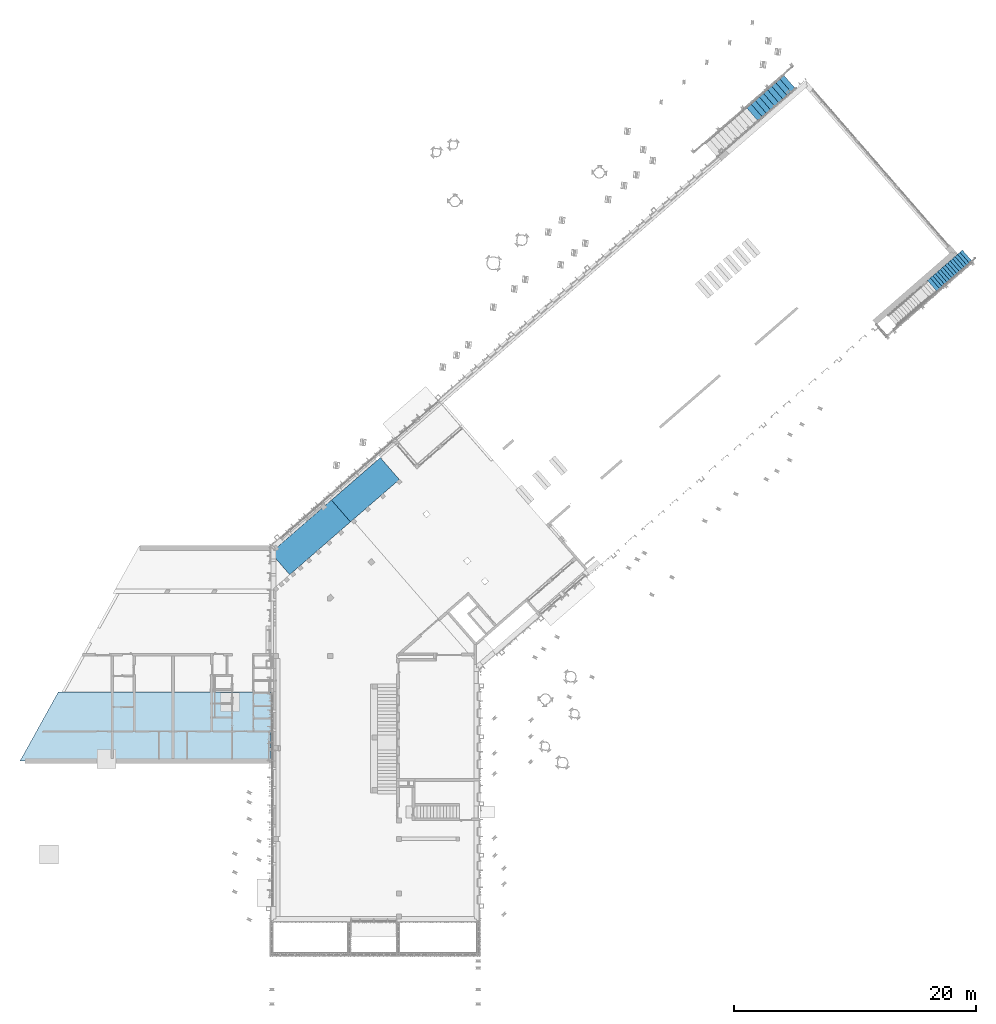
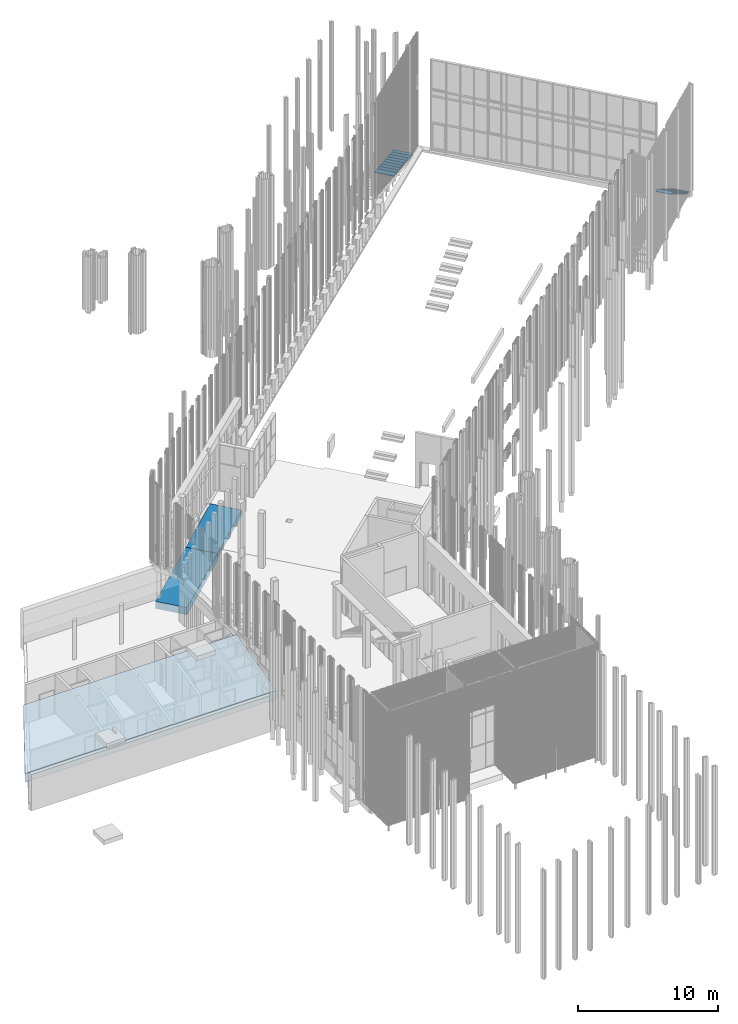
# One storey, part 27 of 390: 23 stairs, 2 ramps, 1 roof, 2 elements without a shape of their own.
"""IFC2X3 building model written with IfcOpenShell, lengths in millimetres."""

from ifc_helpers import new_model, entity, si_unit, converted_unit, derived_unit, money_unit, direction, frame, origin_with_axes, place, context, subcontext, project, spatial, polyline, outline, extrude, faceted_brep, material, material_list, element, aggregate, save


model = new_model("IFC2X3")

# Units and contexts
model_context = context("Model", 3, precision=1e-05, world=origin_with_axes(), true_north=direction((0.0, 1.0)))
body_context = subcontext(model_context, "Body", "Model", "MODEL_VIEW")
ifc_project = project(units=[si_unit("LENGTHUNIT", "METRE", prefix="MILLI"), si_unit("AREAUNIT", "SQUARE_METRE"), si_unit("VOLUMEUNIT", "CUBIC_METRE"), converted_unit("PLANEANGLEUNIT", "DEGREE", entity("IfcPlaneAngleMeasure", 0.0174532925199), si_unit("PLANEANGLEUNIT", "RADIAN"), dimensions=[0, 0, 0, 0, 0, 0, 0]), si_unit("SOLIDANGLEUNIT", "STERADIAN"), money_unit("EUR"), converted_unit("TIMEUNIT", "Year", entity("IfcTimeMeasure", 31556926.0), si_unit("TIMEUNIT", "SECOND"), dimensions=[0, 0, 1, 0, 0, 0, 0]), si_unit("MASSUNIT", "GRAM", prefix="KILO"), si_unit("THERMODYNAMICTEMPERATUREUNIT", "DEGREE_CELSIUS"), si_unit("LUMINOUSINTENSITYUNIT", "LUMEN"), si_unit("ENERGYUNIT", "JOULE", prefix="MEGA"), derived_unit("THERMALCONDUCTANCEUNIT", [(si_unit("POWERUNIT", "WATT"), 1), (si_unit("LENGTHUNIT", "METRE"), -1), (si_unit("THERMODYNAMICTEMPERATUREUNIT", "KELVIN"), -1)]), derived_unit("SPECIFICHEATCAPACITYUNIT", [(si_unit("ENERGYUNIT", "JOULE"), 1), (si_unit("MASSUNIT", "GRAM", prefix="KILO"), -1), (si_unit("THERMODYNAMICTEMPERATUREUNIT", "KELVIN"), -1)]), derived_unit("MASSDENSITYUNIT", [(si_unit("MASSUNIT", "GRAM", prefix="KILO"), 1), (si_unit("VOLUMEUNIT", "CUBIC_METRE"), -1)])], contexts=[model_context])

# Site, building, storey
site_placement = place(None, origin_with_axes())
site = spatial("IfcSite", under=ifc_project, at=site_placement, Name="Site", CompositionType="ELEMENT")
building_placement = place(site_placement, origin_with_axes())
building = spatial("IfcBuilding", under=site, at=building_placement, Name="Building", CompositionType="ELEMENT")
storey_placement = place(building_placement, origin_with_axes())
storey = spatial("IfcBuildingStorey", under=building, at=storey_placement, Name="1 korrus", CompositionType="ELEMENT", Elevation=0.0)

# Stairs
stair_1_placement = place(storey_placement, frame((164892.524006, 115287.293826, -9.99999999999), z_axis=(0.0, 0.0, 1.0), x_axis=(1.0, 0.0, 0.0)))
stair_1 = element("IfcStair", 1, at=stair_1_placement, inside=storey, Name="T-12", ShapeType="NOTDEFINED")
ifc_material_1 = material(Name="Teras (musta värvi)")
stair_2_placement = place(stair_1_placement, frame((478.923091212, -550.93799352, 90.0), z_axis=(0.0, 0.0, 1.0), x_axis=(-0.656059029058, 0.754709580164, 0.0)))
stair_2 = element("IfcStair", 2, at=stair_2_placement, material=ifc_material_1, Name="T-12", ShapeType="NOTDEFINED", context=body_context, shape_type="Brep", body=[
    faceted_brep([(-730.0, 0.0, -50.0), (730.0, 0.0, -50.0), (730.0, 0.0, 0.0), (-730.0, 0.0, 0.0), (-730.0, 490.000005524, -50.0), (730.0, 490.000001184, -50.0), (730.0, 490.000001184, 0.0), (-730.0, 490.000005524, 0.0)], [[[0, 1, 2, 3]], [[0, 4, 5, 1]], [[1, 5, 6, 2]], [[3, 2, 6, 7]], [[4, 0, 3, 7]], [[5, 4, 7, 6]]]),
])
stair_3_placement = place(stair_1_placement, frame((139.303780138, -846.164556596, 180.0), z_axis=(0.0, 0.0, 1.0), x_axis=(-0.656059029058, 0.754709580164, 0.0)))
stair_3 = element("IfcStair", 3, at=stair_3_placement, material=ifc_material_1, Name="T-12", ShapeType="NOTDEFINED", context=body_context, shape_type="Brep", body=[
    faceted_brep([(-730.0, 0.0, -50.0), (730.0, 0.0, -50.0), (730.0, 0.0, 0.0), (-730.0, 0.0, 0.0), (-730.0, 490.000004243, -50.0), (730.0, 489.999999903, -50.0), (730.0, 489.999999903, 0.0), (-730.0, 490.000004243, 0.0)], [[[0, 1, 2, 3]], [[0, 4, 5, 1]], [[1, 5, 6, 2]], [[3, 2, 6, 7]], [[4, 0, 3, 7]], [[5, 4, 7, 6]]]),
])
stair_4_placement = place(stair_1_placement, frame((-200.315530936, -1141.39111967, 270.0), z_axis=(0.0, 0.0, 1.0), x_axis=(-0.656059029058, 0.754709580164, 0.0)))
stair_4 = element("IfcStair", 4, at=stair_4_placement, material=ifc_material_1, Name="T-12", ShapeType="NOTDEFINED", context=body_context, shape_type="Brep", body=[
    faceted_brep([(-730.0, 0.0, -50.0), (730.0, 0.0, -50.0), (730.0, 0.0, 0.0), (-730.0, 0.0, 0.0), (-730.0, 490.000004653, -50.0), (730.0, 490.000000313, -50.0), (730.0, 490.000000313, 0.0), (-730.0, 490.000004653, 0.0)], [[[0, 1, 2, 3]], [[0, 4, 5, 1]], [[1, 5, 6, 2]], [[3, 2, 6, 7]], [[4, 0, 3, 7]], [[5, 4, 7, 6]]]),
])
stair_5_placement = place(stair_1_placement, frame((-539.93484201, -1436.61768275, 360.0), z_axis=(0.0, 0.0, 1.0), x_axis=(-0.656059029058, 0.754709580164, 0.0)))
stair_5 = element("IfcStair", 5, at=stair_5_placement, material=ifc_material_1, Name="T-12", ShapeType="NOTDEFINED", context=body_context, shape_type="Brep", body=[
    faceted_brep([(-730.0, 0.0, -50.0), (730.0, 0.0, -50.0), (730.0, 0.0, 0.0), (-730.0, 0.0, 0.0), (-730.0, 490.000005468, -50.0), (730.0, 490.000001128, -50.0), (730.0, 490.000001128, 0.0), (-730.0, 490.000005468, 0.0)], [[[0, 1, 2, 3]], [[0, 4, 5, 1]], [[1, 5, 6, 2]], [[3, 2, 6, 7]], [[4, 0, 3, 7]], [[5, 4, 7, 6]]]),
])
stair_6_placement = place(stair_1_placement, frame((-879.554153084, -1731.84424582, 450.0), z_axis=(0.0, 0.0, 1.0), x_axis=(-0.656059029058, 0.754709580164, 0.0)))
stair_6 = element("IfcStair", 6, at=stair_6_placement, material=ifc_material_1, Name="T-12", ShapeType="NOTDEFINED", context=body_context, shape_type="Brep", body=[
    faceted_brep([(-730.0, 0.0, -50.0), (730.0, 0.0, -50.0), (730.0, 0.0, 0.0), (-730.0, 0.0, 0.0), (-730.0, 490.000004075, -50.0), (730.0, 489.999999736, -50.0), (730.0, 489.999999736, 0.0), (-730.0, 490.000004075, 0.0)], [[[0, 1, 2, 3]], [[0, 4, 5, 1]], [[1, 5, 6, 2]], [[3, 2, 6, 7]], [[4, 0, 3, 7]], [[5, 4, 7, 6]]]),
])
stair_7_placement = place(stair_1_placement, frame((-1219.17346416, -2027.0708089, 540.0), z_axis=(0.0, 0.0, 1.0), x_axis=(-0.656059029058, 0.754709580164, 0.0)))
stair_7 = element("IfcStair", 7, at=stair_7_placement, material=ifc_material_1, Name="T-12", ShapeType="NOTDEFINED", context=body_context, shape_type="Brep", body=[
    faceted_brep([(-730.0, 0.0, -50.0), (730.0, 0.0, -50.0), (730.0, 0.0, 0.0), (-730.0, 0.0, 0.0), (-730.0, 490.000004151, -50.0), (730.0, 489.999999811, -50.0), (730.0, 489.999999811, 0.0), (-730.0, 490.000004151, 0.0)], [[[0, 1, 2, 3]], [[0, 4, 5, 1]], [[1, 5, 6, 2]], [[3, 2, 6, 7]], [[4, 0, 3, 7]], [[5, 4, 7, 6]]]),
])
stair_8_placement = place(stair_1_placement, frame((-1558.79277523, -2322.29737198, 630.0), z_axis=(0.0, 0.0, 1.0), x_axis=(-0.656059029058, 0.754709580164, 0.0)))
stair_8 = element("IfcStair", 8, at=stair_8_placement, material=ifc_material_1, Name="T-12", ShapeType="NOTDEFINED", context=body_context, shape_type="Brep", body=[
    faceted_brep([(-730.0, 0.0, -50.0), (730.0, 0.0, -50.0), (730.0, 0.0, 0.0), (-730.0, 0.0, 0.0), (-730.0, 490.000004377, -50.0), (730.0, 490.000000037, -50.0), (730.0, 490.000000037, 0.0), (-730.0, 490.000004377, 0.0)], [[[0, 1, 2, 3]], [[0, 4, 5, 1]], [[1, 5, 6, 2]], [[3, 2, 6, 7]], [[4, 0, 3, 7]], [[5, 4, 7, 6]]]),
])
stair_9_placement = place(stair_1_placement, frame((-1898.41208631, -2617.52393505, 720.0), z_axis=(0.0, 0.0, 1.0), x_axis=(-0.656059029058, 0.754709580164, 0.0)))
stair_9 = element("IfcStair", 9, at=stair_9_placement, material=ifc_material_1, Name="T-12", ShapeType="NOTDEFINED", context=body_context, shape_type="Brep", body=[
    faceted_brep([(-730.0, 0.0, -50.0), (730.0, 0.0, -50.0), (730.0, 0.0, 0.0), (-730.0, 0.0, 0.0), (-730.0, 490.000005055, -50.0), (730.0, 490.000000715, -50.0), (730.0, 490.000000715, 0.0), (-730.0, 490.000005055, 0.0)], [[[0, 1, 2, 3]], [[0, 4, 5, 1]], [[1, 5, 6, 2]], [[3, 2, 6, 7]], [[4, 0, 3, 7]], [[5, 4, 7, 6]]]),
])
stair_10_placement = place(stair_1_placement, frame((-2238.03139738, -2912.75049813, 810.0), z_axis=(0.0, 0.0, 1.0), x_axis=(-0.656059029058, 0.754709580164, 0.0)))
stair_10 = element("IfcStair", 10, at=stair_10_placement, material=ifc_material_1, Name="T-12", ShapeType="NOTDEFINED", context=body_context, shape_type="Brep", body=[
    faceted_brep([(-730.0, 0.0, -50.0), (730.0, 0.0, -50.0), (730.0, 0.0, 0.0), (-730.0, 0.0, 0.0), (-730.0, 490.000007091, -50.0), (730.0, 490.000002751, -50.0), (730.0, 490.000002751, 0.0), (-730.0, 490.000007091, 0.0)], [[[0, 1, 2, 3]], [[0, 4, 5, 1]], [[1, 5, 6, 2]], [[3, 2, 6, 7]], [[4, 0, 3, 7]], [[5, 4, 7, 6]]]),
])
aggregate(stair_1, [stair_2, stair_3, stair_4, stair_5, stair_6, stair_7, stair_8, stair_9, stair_10])

stair_11_placement = place(storey_placement, frame((179650.317261, 100840.655313, 120.000119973), z_axis=(0.0, 0.0, 1.0), x_axis=(1.0, 0.0, 0.0)))
stair_11 = element("IfcStair", 11, at=stair_11_placement, inside=storey, Name="T-11", ShapeType="NOTDEFINED")
stair_12_placement = place(stair_11_placement, frame((393.635417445, -452.825748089, 174.999995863), z_axis=(0.0, 0.0, 1.0), x_axis=(-0.656059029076, 0.754709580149, 0.0)))
stair_12 = element("IfcStair", 12, at=stair_12_placement, material=ifc_material_1, Name="T-11", ShapeType="NOTDEFINED", context=body_context, shape_type="Brep", body=[
    faceted_brep([(-600.0, 0.0, -50.0), (600.0, 0.0, -50.0), (600.0, 0.0, 0.0), (-600.0, 0.0, 0.0), (-600.0, 320.000001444, -50.0), (600.0, 319.999996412, -50.0), (600.0, 319.999996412, 0.0), (-600.0, 320.000001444, 0.0)], [[[0, 1, 2, 3]], [[0, 4, 5, 1]], [[1, 5, 6, 2]], [[3, 2, 6, 7]], [[4, 0, 3, 7]], [[5, 4, 7, 6]]]),
])
stair_13_placement = place(stair_11_placement, frame((189.863830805, -629.96168594, 349.999991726), z_axis=(0.0, 0.0, 1.0), x_axis=(-0.656059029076, 0.754709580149, 0.0)))
stair_13 = element("IfcStair", 13, at=stair_13_placement, material=ifc_material_1, Name="T-11", ShapeType="NOTDEFINED", context=body_context, shape_type="Brep", body=[
    faceted_brep([(-600.0, 0.0, -50.0), (600.0, 0.0, -50.0), (600.0, 0.0, 0.0), (-600.0, 0.0, 0.0), (-600.0, 320.000002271, -50.0), (600.0, 319.999997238, -50.0), (600.0, 319.999997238, 0.0), (-600.0, 320.000002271, 0.0)], [[[0, 1, 2, 3]], [[0, 4, 5, 1]], [[1, 5, 6, 2]], [[3, 2, 6, 7]], [[4, 0, 3, 7]], [[5, 4, 7, 6]]]),
])
stair_14_placement = place(stair_11_placement, frame((-13.907755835, -807.09762379, 524.999987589), z_axis=(0.0, 0.0, 1.0), x_axis=(-0.656059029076, 0.754709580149, 0.0)))
stair_14 = element("IfcStair", 14, at=stair_14_placement, material=ifc_material_1, Name="T-11", ShapeType="NOTDEFINED", context=body_context, shape_type="Brep", body=[
    faceted_brep([(-600.0, 0.0, -50.0), (600.0, 0.0, -50.0), (600.0, 0.0, 0.0), (-600.0, 0.0, 0.0), (-600.0, 320.000001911, -50.0), (600.0, 319.999996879, -50.0), (600.0, 319.999996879, 0.0), (-600.0, 320.000001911, 0.0)], [[[0, 1, 2, 3]], [[0, 4, 5, 1]], [[1, 5, 6, 2]], [[3, 2, 6, 7]], [[4, 0, 3, 7]], [[5, 4, 7, 6]]]),
])
stair_15_placement = place(stair_11_placement, frame((-217.679342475, -984.233561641, 699.999983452), z_axis=(0.0, 0.0, 1.0), x_axis=(-0.656059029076, 0.754709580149, 0.0)))
stair_15 = element("IfcStair", 15, at=stair_15_placement, material=ifc_material_1, Name="T-11", ShapeType="NOTDEFINED", context=body_context, shape_type="Brep", body=[
    faceted_brep([(-600.0, 0.0, -50.0), (600.0, 0.0, -50.0), (600.0, 0.0, 0.0), (-600.0, 0.0, 0.0), (-600.0, 320.000003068, -50.0), (600.0, 319.999998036, -50.0), (600.0, 319.999998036, 0.0), (-600.0, 320.000003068, 0.0)], [[[0, 1, 2, 3]], [[0, 4, 5, 1]], [[1, 5, 6, 2]], [[3, 2, 6, 7]], [[4, 0, 3, 7]], [[5, 4, 7, 6]]]),
])
stair_16_placement = place(stair_11_placement, frame((-421.450929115, -1161.36949949, 874.999979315), z_axis=(0.0, 0.0, 1.0), x_axis=(-0.656059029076, 0.754709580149, 0.0)))
stair_16 = element("IfcStair", 16, at=stair_16_placement, material=ifc_material_1, Name="T-11", ShapeType="NOTDEFINED", context=body_context, shape_type="Brep", body=[
    faceted_brep([(-600.0, 0.0, -50.0), (600.0, 0.0, -50.0), (600.0, 0.0, 0.0), (-600.0, 0.0, 0.0), (-600.0, 320.000001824, -50.0), (600.0, 319.999996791, -50.0), (600.0, 319.999996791, 0.0), (-600.0, 320.000001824, 0.0)], [[[0, 1, 2, 3]], [[0, 4, 5, 1]], [[1, 5, 6, 2]], [[3, 2, 6, 7]], [[4, 0, 3, 7]], [[5, 4, 7, 6]]]),
])
stair_17_placement = place(stair_11_placement, frame((-625.222515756, -1338.50543734, 1049.99997518), z_axis=(0.0, 0.0, 1.0), x_axis=(-0.656059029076, 0.754709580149, 0.0)))
stair_17 = element("IfcStair", 17, at=stair_17_placement, material=ifc_material_1, Name="T-11", ShapeType="NOTDEFINED", context=body_context, shape_type="Brep", body=[
    faceted_brep([(-600.0, 0.0, -50.0), (600.0, 0.0, -50.0), (600.0, 0.0, 0.0), (-600.0, 0.0, 0.0), (-600.0, 320.000002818, -50.0), (600.0, 319.999997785, -50.0), (600.0, 319.999997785, 0.0), (-600.0, 320.000002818, 0.0)], [[[0, 1, 2, 3]], [[0, 4, 5, 1]], [[1, 5, 6, 2]], [[3, 2, 6, 7]], [[4, 0, 3, 7]], [[5, 4, 7, 6]]]),
])
stair_18_placement = place(stair_11_placement, frame((-828.994102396, -1515.64137519, 1224.99997104), z_axis=(0.0, 0.0, 1.0), x_axis=(-0.656059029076, 0.754709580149, 0.0)))
stair_18 = element("IfcStair", 18, at=stair_18_placement, material=ifc_material_1, Name="T-11", ShapeType="NOTDEFINED", context=body_context, shape_type="Brep", body=[
    faceted_brep([(-600.0, 0.0, -50.0), (600.0, 0.0, -50.0), (600.0, 0.0, 0.0), (-600.0, 0.0, 0.0), (-600.0, 320.000001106, -50.0), (600.0, 319.999996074, -50.0), (600.0, 319.999996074, 0.0), (-600.0, 320.000001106, 0.0)], [[[0, 1, 2, 3]], [[0, 4, 5, 1]], [[1, 5, 6, 2]], [[3, 2, 6, 7]], [[4, 0, 3, 7]], [[5, 4, 7, 6]]]),
])
stair_19_placement = place(stair_11_placement, frame((-1032.76568904, -1692.77731304, 1399.9999669), z_axis=(0.0, 0.0, 1.0), x_axis=(-0.656059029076, 0.754709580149, 0.0)))
stair_19 = element("IfcStair", 19, at=stair_19_placement, material=ifc_material_1, Name="T-11", ShapeType="NOTDEFINED", context=body_context, shape_type="Brep", body=[
    faceted_brep([(-600.0, 0.0, -50.0), (600.0, 0.0, -50.0), (600.0, 0.0, 0.0), (-600.0, 0.0, 0.0), (-600.0, 320.000001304, -50.0), (600.0, 319.999996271, -50.0), (600.0, 319.999996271, 0.0), (-600.0, 320.000001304, 0.0)], [[[0, 1, 2, 3]], [[0, 4, 5, 1]], [[1, 5, 6, 2]], [[3, 2, 6, 7]], [[4, 0, 3, 7]], [[5, 4, 7, 6]]]),
])
stair_20_placement = place(stair_11_placement, frame((-1236.53727568, -1869.91325089, 1574.99996277), z_axis=(0.0, 0.0, 1.0), x_axis=(-0.656059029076, 0.754709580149, 0.0)))
stair_20 = element("IfcStair", 20, at=stair_20_placement, material=ifc_material_1, Name="T-11", ShapeType="NOTDEFINED", context=body_context, shape_type="Brep", body=[
    faceted_brep([(-600.0, 0.0, -50.0), (600.0, 0.0, -50.0), (600.0, 0.0, 0.0), (-600.0, 0.0, 0.0), (-600.0, 319.999999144, -50.0), (600.0, 320.000005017, -50.0), (600.0, 320.000005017, 0.0), (-600.0, 319.999999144, 0.0)], [[[0, 1, 2, 3]], [[0, 4, 5, 1]], [[1, 5, 6, 2]], [[3, 2, 6, 7]], [[4, 0, 3, 7]], [[5, 4, 7, 6]]]),
])
stair_21_placement = place(stair_11_placement, frame((-1440.30886232, -2047.04918874, 1749.99995863), z_axis=(0.0, 0.0, 1.0), x_axis=(-0.656059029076, 0.754709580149, 0.0)))
stair_21 = element("IfcStair", 21, at=stair_21_placement, material=ifc_material_1, Name="T-11", ShapeType="NOTDEFINED", context=body_context, shape_type="Brep", body=[
    faceted_brep([(-600.0, 0.0, -50.0), (600.0, 0.0, -50.0), (600.0, 0.0, 0.0), (-600.0, 0.0, 0.0), (-600.0, 319.999998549, -50.0), (600.0, 320.000004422, -50.0), (600.0, 320.000004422, 0.0), (-600.0, 319.999998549, 0.0)], [[[0, 1, 2, 3]], [[0, 4, 5, 1]], [[1, 5, 6, 2]], [[3, 2, 6, 7]], [[4, 0, 3, 7]], [[5, 4, 7, 6]]]),
])
stair_22_placement = place(stair_11_placement, frame((-1644.08044896, -2224.18512659, 1924.99995449), z_axis=(0.0, 0.0, 1.0), x_axis=(-0.656059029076, 0.754709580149, 0.0)))
stair_22 = element("IfcStair", 22, at=stair_22_placement, material=ifc_material_1, Name="T-11", ShapeType="NOTDEFINED", context=body_context, shape_type="Brep", body=[
    faceted_brep([(-600.0, 0.0, -50.0), (600.0, 0.0, -50.0), (600.0, 0.0, 0.0), (-600.0, 0.0, 0.0), (-600.0, 320.000001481, -50.0), (600.0, 319.999996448, -50.0), (600.0, 319.999996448, 0.0), (-600.0, 320.000001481, 0.0)], [[[0, 1, 2, 3]], [[0, 4, 5, 1]], [[1, 5, 6, 2]], [[3, 2, 6, 7]], [[4, 0, 3, 7]], [[5, 4, 7, 6]]]),
])
stair_23_placement = place(stair_11_placement, frame((-1847.8520356, -2401.32106444, 2099.99995036), z_axis=(0.0, 0.0, 1.0), x_axis=(-0.656059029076, 0.754709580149, 0.0)))
stair_23 = element("IfcStair", 23, at=stair_23_placement, material=ifc_material_1, Name="T-11", ShapeType="NOTDEFINED", context=body_context, shape_type="Brep", body=[
    faceted_brep([(-600.0, 0.0, -50.0), (600.0, 0.0, -50.0), (600.0, 0.0, 0.0), (-600.0, 0.0, 0.0), (-600.0, 320.000002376, -50.0), (600.0, 319.999997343, -50.0), (600.0, 319.999997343, 0.0), (-600.0, 320.000002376, 0.0)], [[[0, 1, 2, 3]], [[0, 4, 5, 1]], [[1, 5, 6, 2]], [[3, 2, 6, 7]], [[4, 0, 3, 7]], [[5, 4, 7, 6]]]),
])
stair_24_placement = place(stair_11_placement, frame((-2051.62362224, -2578.45700229, 2274.99994622), z_axis=(0.0, 0.0, 1.0), x_axis=(-0.656059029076, 0.754709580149, 0.0)))
stair_24 = element("IfcStair", 24, at=stair_24_placement, material=ifc_material_1, Name="T-11", ShapeType="NOTDEFINED", context=body_context, shape_type="Brep", body=[
    faceted_brep([(-600.0, 0.0, -50.0), (600.0, 0.0, -50.0), (600.0, 0.0, 0.0), (-600.0, 0.0, 0.0), (-600.0, 320.000002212, -50.0), (600.0, 319.999997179, -50.0), (600.0, 319.999997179, 0.0), (-600.0, 320.000002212, 0.0)], [[[0, 1, 2, 3]], [[0, 4, 5, 1]], [[1, 5, 6, 2]], [[3, 2, 6, 7]], [[4, 0, 3, 7]], [[5, 4, 7, 6]]]),
])
stair_25_placement = place(stair_11_placement, frame((-2255.39520888, -2755.59294014, 2449.99994208), z_axis=(0.0, 0.0, 1.0), x_axis=(-0.656059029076, 0.754709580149, 0.0)))
stair_25 = element("IfcStair", 25, at=stair_25_placement, material=ifc_material_1, Name="T-11", ShapeType="NOTDEFINED", context=body_context, shape_type="Brep", body=[
    faceted_brep([(-600.0, 0.0, -50.0), (600.0, 0.0, -50.0), (600.0, 0.0, 0.0), (-600.0, 0.0, 0.0), (-600.0, 320.000001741, -50.0), (600.0, 319.999996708, -50.0), (600.0, 319.999996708, 0.0), (-600.0, 320.000001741, 0.0)], [[[0, 1, 2, 3]], [[0, 4, 5, 1]], [[1, 5, 6, 2]], [[3, 2, 6, 7]], [[4, 0, 3, 7]], [[5, 4, 7, 6]]]),
])
aggregate(stair_11, [stair_12, stair_13, stair_14, stair_15, stair_16, stair_17, stair_18, stair_19, stair_20, stair_21, stair_22, stair_23, stair_24, stair_25])

# Ramps
ifc_material_2 = material(Name="Membraan - Veekindel")
ifc_material_3 = material(Name="Killustik")
ifc_material_4 = material(Name="Soojustus - Plastik Kõva")
ifc_material_5 = material(Name="Radoonitõkke kile")
ifc_material_6 = material(Name="Betoon")
ifc_material_7 = material(Name="Puit - Põrand")
ifc_material_list_1 = material_list([ifc_material_2, ifc_material_3, ifc_material_4, ifc_material_5, ifc_material_4, ifc_material_2, ifc_material_6, ifc_material_7])
ramp_1_placement = place(storey_placement, frame((133100.924402, 81880.8465879, -620.774133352), z_axis=(0.0, 0.0, 1.0), x_axis=(-0.656090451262, 0.75468226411, 0.0)))
element("IfcRamp", 26, at=ramp_1_placement, inside=storey, material=ifc_material_list_1, Name="PP-01", ShapeType="NOTDEFINED", context=body_context, shape_type="SweptSolid", body=[
    extrude(outline(polyline([(2400.22250505, 5356.55383298), (2400.49960836, 12017.9566927), (0.499556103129, 12018.056743), (0.222703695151, 5356.65388313), (2400.22250505, 5356.55383298)])), frame((0.0, 0.0, 0.0), z_axis=(0.0, 0.0499252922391, 0.998752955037), x_axis=(1.0, 0.0, 0.0)), (0.0, -0.0499252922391, 0.998752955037), 0.0),
    extrude(outline(polyline([(2400.22250505, 5356.55383298), (2400.49960836, 12017.9566927), (0.499556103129, 12018.056743), (0.222703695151, 5356.65388313), (2400.22250505, 5356.55383298)])), frame((0.0, 0.0, 0.0), z_axis=(0.0, 0.0499252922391, 0.998752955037), x_axis=(1.0, 0.0, 0.0)), (0.0, -0.0499252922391, 0.998752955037), 200.249720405),
    extrude(outline(polyline([(2400.22250505, 5356.55383298), (2400.49960836, 12017.9566927), (0.499556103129, 12018.056743), (0.222703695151, 5356.65388313), (2400.22250505, 5356.55383298)])), frame((0.0, 0.0, 200.249720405), z_axis=(0.0, 0.0499252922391, 0.998752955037), x_axis=(1.0, 0.0, 0.0)), (0.0, -0.0499252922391, 0.998752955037), 100.124860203),
    extrude(outline(polyline([(2400.22250505, 5356.55383298), (2400.49960836, 12017.9566927), (0.499556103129, 12018.056743), (0.222703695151, 5356.65388313), (2400.22250505, 5356.55383298)])), frame((0.0, 0.0, 300.374580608), z_axis=(0.0, 0.0499252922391, 0.998752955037), x_axis=(1.0, 0.0, 0.0)), (0.0, -0.0499252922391, 0.998752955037), 0.0),
    extrude(outline(polyline([(2400.22250505, 5356.55383298), (2400.49960836, 12017.9566927), (0.499556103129, 12018.056743), (0.222703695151, 5356.65388313), (2400.22250505, 5356.55383298)])), frame((0.0, 0.0, 300.374580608), z_axis=(0.0, 0.0499252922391, 0.998752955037), x_axis=(1.0, 0.0, 0.0)), (0.0, -0.0499252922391, 0.998752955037), 100.124860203),
    extrude(outline(polyline([(2400.22250505, 5356.55383298), (2400.49960836, 12017.9566927), (0.499556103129, 12018.056743), (0.222703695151, 5356.65388313), (2400.22250505, 5356.55383298)])), frame((0.0, 0.0, 400.49944081), z_axis=(0.0, 0.0499252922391, 0.998752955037), x_axis=(1.0, 0.0, 0.0)), (0.0, -0.0499252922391, 0.998752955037), 0.0),
    extrude(outline(polyline([(2400.22250505, 5356.55383298), (2400.49960836, 12017.9566927), (0.499556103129, 12018.056743), (0.222703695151, 5356.65388313), (2400.22250505, 5356.55383298)])), frame((0.0, 0.0, 400.49944081), z_axis=(0.0, 0.0499252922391, 0.998752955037), x_axis=(1.0, 0.0, 0.0)), (0.0, -0.0499252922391, 0.998752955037), 200.249720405),
    extrude(outline(polyline([(2400.22250505, 5356.55383298), (2400.49960836, 12017.9566927), (0.499556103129, 12018.056743), (0.222703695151, 5356.65388313), (2400.22250505, 5356.55383298)])), frame((0.0, 0.0, 600.749161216), z_axis=(0.0, 0.0499252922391, 0.998752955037), x_axis=(1.0, 0.0, 0.0)), (0.0, -0.0499252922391, 0.998752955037), 20.0249720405),
])
ifc_material_8 = material(Name="Raudbetoon - Konstruktsioon")
ifc_material_9 = material(Name="00_mineraalvillaplaat - jäik")
ifc_material_list_2 = material_list([ifc_material_8, ifc_material_4, ifc_material_9, ifc_material_2, ifc_material_6, ifc_material_7])
ramp_2_placement = place(storey_placement, frame((137145.086459, 85383.1330232, -148.090649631), z_axis=(0.0, 0.0, 1.0), x_axis=(-0.656090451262, 0.75468226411, 0.0)))
element("IfcRamp", 27, at=ramp_2_placement, inside=storey, material=ifc_material_list_2, Name="VL-01", ShapeType="NOTDEFINED", context=body_context, shape_type="SweptSolid", body=[
    extrude(outline(polyline([(2400.44532563, 10713.1081502), (10.4453562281, 10713.2078123), (0.222712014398, 5356.65387588), (2400.22252183, 5356.55381078), (2400.44532563, 10713.1081502)])), frame((0.0, 0.0, 0.0), z_axis=(0.0, 0.0499252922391, 0.998752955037), x_axis=(1.0, 0.0, 0.0)), (0.0, -0.0499252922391, 0.998752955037), 265.330879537),
    extrude(outline(polyline([(2400.44532563, 10713.1081502), (10.4453562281, 10713.2078123), (0.222712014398, 5356.65387588), (2400.22252183, 5356.55381078), (2400.44532563, 10713.1081502)])), frame((0.0, 0.0, 265.330879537), z_axis=(0.0, 0.0499252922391, 0.998752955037), x_axis=(1.0, 0.0, 0.0)), (0.0, -0.0499252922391, 0.998752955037), 20.0249720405),
    extrude(outline(polyline([(2400.44532563, 10713.1081502), (10.4453562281, 10713.2078123), (0.222712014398, 5356.65387588), (2400.22252183, 5356.55381078), (2400.44532563, 10713.1081502)])), frame((0.0, 0.0, 285.355851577), z_axis=(0.0, 0.0499252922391, 0.998752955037), x_axis=(1.0, 0.0, 0.0)), (0.0, -0.0499252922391, 0.998752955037), 30.0374580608),
    extrude(outline(polyline([(2400.44532563, 10713.1081502), (10.4453562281, 10713.2078123), (0.222712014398, 5356.65387588), (2400.22252183, 5356.55381078), (2400.44532563, 10713.1081502)])), frame((0.0, 0.0, 315.393309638), z_axis=(0.0, 0.0499252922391, 0.998752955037), x_axis=(1.0, 0.0, 0.0)), (0.0, -0.0499252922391, 0.998752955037), 0.0),
    extrude(outline(polyline([(2400.44532563, 10713.1081502), (10.4453562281, 10713.2078123), (0.222712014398, 5356.65387588), (2400.22252183, 5356.55381078), (2400.44532563, 10713.1081502)])), frame((0.0, 0.0, 315.393309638), z_axis=(0.0, 0.0499252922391, 0.998752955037), x_axis=(1.0, 0.0, 0.0)), (0.0, -0.0499252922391, 0.998752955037), 80.0998881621),
    extrude(outline(polyline([(2400.44532563, 10713.1081502), (10.4453562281, 10713.2078123), (0.222712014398, 5356.65387588), (2400.22252183, 5356.55381078), (2400.44532563, 10713.1081502)])), frame((0.0, 0.0, 395.4931978), z_axis=(0.0, 0.0499252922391, 0.998752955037), x_axis=(1.0, 0.0, 0.0)), (0.0, -0.0499252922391, 0.998752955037), 20.0249720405),
])

# Roof
ifc_material_10 = material(Name="00_membraan_PVC kate")
ifc_material_list_3 = material_list([ifc_material_8, ifc_material_10, ifc_material_9, ifc_material_8])
roof_placement = place(storey_placement, frame((101957.377536, 54621.318577, 294.925287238), z_axis=(0.0, 0.0, 1.0), x_axis=(1.0, 0.0, 0.0)))
element("IfcRoof", 28, at=roof_placement, inside=storey, material=ifc_material_list_3, Name="KL-03", ShapeType="NOTDEFINED", context=body_context, shape_type="SweptSolid", body=[
    extrude(outline(polyline([(20542.6224638, 4104.98818724), (20542.6224644, 9982.1414063), (2944.7715688, 9982.14140702), (-212.74937672, 4104.98818471), (20542.6224638, 4104.98818724)])), frame((0.0, 0.0, 0.0), z_axis=(0.0, -0.246153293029, 0.969230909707), x_axis=(1.0, 0.0, 0.0)), (0.0, 0.246153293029, 0.969230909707), 309.523764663),
    extrude(outline(polyline([(20542.6224638, 4104.98818724), (20542.6224644, 9982.1414063), (2944.7715688, 9982.14140702), (-212.74937672, 4104.98818471), (20542.6224638, 4104.98818724)])), frame((0.0, 0.0, 309.523764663), z_axis=(0.0, -0.246153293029, 0.969230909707), x_axis=(1.0, 0.0, 0.0)), (0.0, 0.246153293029, 0.969230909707), 10.3174588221),
    extrude(outline(polyline([(20542.6224638, 4104.98818724), (20542.6224644, 9982.1414063), (2944.7715688, 9982.14140702), (-212.74937672, 4104.98818471), (20542.6224638, 4104.98818724)])), frame((0.0, 0.0, 319.841223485), z_axis=(0.0, -0.246153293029, 0.969230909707), x_axis=(1.0, 0.0, 0.0)), (0.0, 0.246153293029, 0.969230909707), 309.523764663),
    extrude(outline(polyline([(20542.6224638, 4104.98818724), (20542.6224644, 9982.1414063), (2944.7715688, 9982.14140702), (-212.74937672, 4104.98818471), (20542.6224638, 4104.98818724)])), frame((0.0, 0.0, 629.364988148), z_axis=(0.0, -0.246153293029, 0.969230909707), x_axis=(1.0, 0.0, 0.0)), (0.0, 0.246153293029, 0.969230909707), 123.809505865),
])

save(model, "model.ifc")
